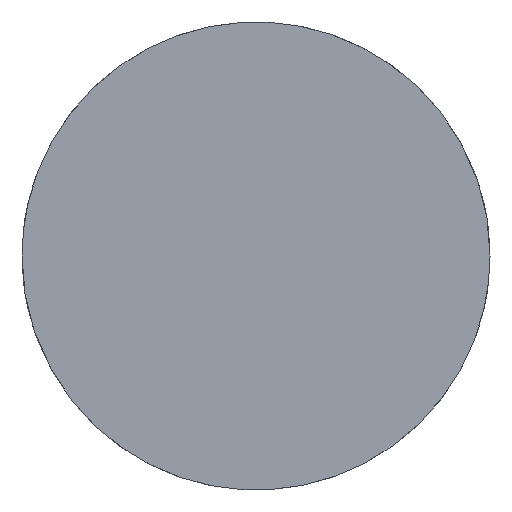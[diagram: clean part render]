
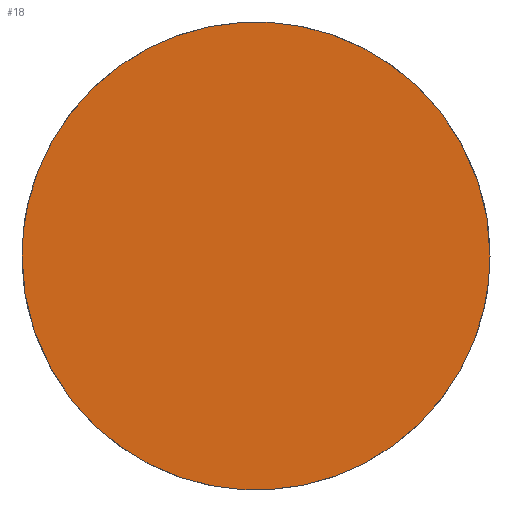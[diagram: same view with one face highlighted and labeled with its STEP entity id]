
A CAD part, front view. The second image highlights one B-rep face of the part: STEP entity #18.
In plain terms, the highlighted planar face has unit normal (0, -1, 0).
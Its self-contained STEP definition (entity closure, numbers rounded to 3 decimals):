
#18=ADVANCED_FACE('',(#24),#80,.T.);
#24=FACE_OUTER_BOUND('',#30,.T.);
#30=EDGE_LOOP('',(#43,#44));
#43=ORIENTED_EDGE('',*,*,#57,.T.);
#44=ORIENTED_EDGE('',*,*,#60,.T.);
#57=EDGE_CURVE('',#75,#77,#67,.T.);
#60=EDGE_CURVE('',#77,#75,#70,.T.);
#67=(
BOUNDED_CURVE()
B_SPLINE_CURVE(2,(#177,#178,#179,#180,#181),.UNSPECIFIED.,.F.,.F.)
B_SPLINE_CURVE_WITH_KNOTS((3,2,3),(-25.133,-18.85,
-12.566),.UNSPECIFIED.)
CURVE()
GEOMETRIC_REPRESENTATION_ITEM()
RATIONAL_B_SPLINE_CURVE((1.,0.707,1.,0.707,1.))
REPRESENTATION_ITEM('')
);
#70=(
BOUNDED_CURVE()
B_SPLINE_CURVE(2,(#189,#190,#191,#192,#193),.UNSPECIFIED.,.F.,.F.)
B_SPLINE_CURVE_WITH_KNOTS((3,2,3),(-12.566,-6.283,
0.),.UNSPECIFIED.)
CURVE()
GEOMETRIC_REPRESENTATION_ITEM()
RATIONAL_B_SPLINE_CURVE((1.,0.707,1.,0.707,1.))
REPRESENTATION_ITEM('')
);
#75=VERTEX_POINT('',#159);
#77=VERTEX_POINT('',#161);
#80=PLANE('',#106);
#106=AXIS2_PLACEMENT_3D('',#136,#111,$);
#111=DIRECTION('',(0.,-1.,0.));
#136=CARTESIAN_POINT('',(-164.713,-135.,0.));
#159=CARTESIAN_POINT('',(148.605,-135.,406.609));
#161=CARTESIAN_POINT('',(156.605,-135.,406.609));
#177=CARTESIAN_POINT('',(148.605,-135.,406.609));
#178=CARTESIAN_POINT('',(148.605,-135.,402.609));
#179=CARTESIAN_POINT('',(152.605,-135.,402.609));
#180=CARTESIAN_POINT('',(156.605,-135.,402.609));
#181=CARTESIAN_POINT('',(156.605,-135.,406.609));
#189=CARTESIAN_POINT('',(156.605,-135.,406.609));
#190=CARTESIAN_POINT('',(156.605,-135.,410.609));
#191=CARTESIAN_POINT('',(152.605,-135.,410.609));
#192=CARTESIAN_POINT('',(148.605,-135.,410.609));
#193=CARTESIAN_POINT('',(148.605,-135.,406.609));
